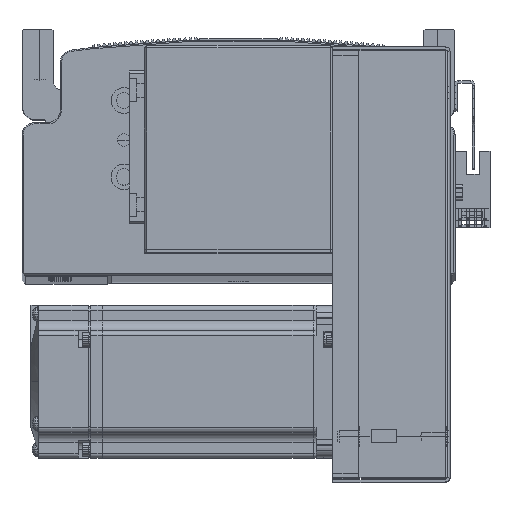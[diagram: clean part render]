
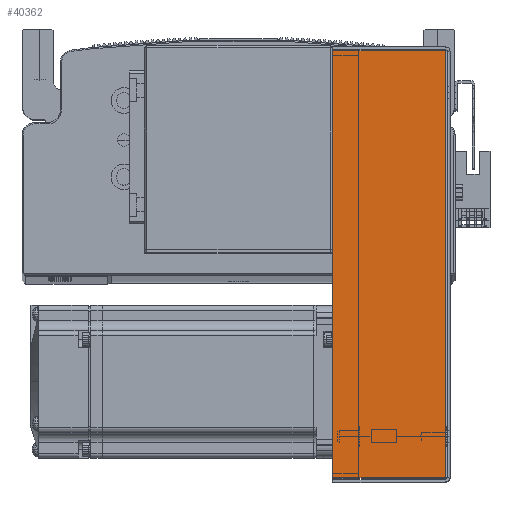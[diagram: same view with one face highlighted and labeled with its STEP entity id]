
A CAD part, top view. The second image highlights one B-rep face of the part: STEP entity #40362.
In plain terms, the highlighted planar face has unit normal (0, 0, 1) as drawn and (0, 0, -1) by its records, which use the part's own axes.
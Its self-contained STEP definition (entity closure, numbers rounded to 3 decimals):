
#6462 = EDGE_CURVE ( 'NONE', #61889, #61862, #42407, .T. ) ;
#6487 = EDGE_CURVE ( 'NONE', #61862, #61921, #42459, .T. ) ;
#6488 = EDGE_CURVE ( 'NONE', #61889, #61875, #42466, .T. ) ;
#6546 = EDGE_CURVE ( 'NONE', #61875, #61921, #24849, .T. ) ;
#24836 = VECTOR ( 'NONE', #72984, 1000. ) ;
#24849 = LINE ( 'NONE', #72948, #24836 ) ;
#30886 = AXIS2_PLACEMENT_3D ( 'NONE', #43049, #43037, #43054 ) ;
#35597 = FACE_OUTER_BOUND ( 'NONE', #80163, .T. ) ;
#39744 = ORIENTED_EDGE ( 'NONE', *, *, #6462, .T. ) ;
#39778 = ORIENTED_EDGE ( 'NONE', *, *, #6487, .T. ) ;
#39791 = ORIENTED_EDGE ( 'NONE', *, *, #6546, .F. ) ;
#39797 = ORIENTED_EDGE ( 'NONE', *, *, #6488, .F. ) ;
#40362 = ADVANCED_FACE ( 'NONE', ( #35597 ), #43058, .F. ) ;
#42407 = LINE ( 'NONE', #52869, #42408 ) ;
#42408 = VECTOR ( 'NONE', #52867, 1000. ) ;
#42459 = LINE ( 'NONE', #73485, #42460 ) ;
#42460 = VECTOR ( 'NONE', #73430, 1000. ) ;
#42462 = VECTOR ( 'NONE', #73501, 1000. ) ;
#42466 = LINE ( 'NONE', #73438, #42462 ) ;
#43037 = DIRECTION ( 'NONE',  ( 0., 0., 1. ) ) ;
#43049 = CARTESIAN_POINT ( 'NONE',  ( 0., 0., -40.5 ) ) ;
#43054 = DIRECTION ( 'NONE',  ( 0., -1., 0. ) ) ;
#43058 = PLANE ( 'NONE',  #30886 ) ;
#46066 = CARTESIAN_POINT ( 'NONE',  ( -83.793, 45., -40.5 ) ) ;
#46114 = CARTESIAN_POINT ( 'NONE',  ( 83.793, 0.737, -40.5 ) ) ;
#46182 = CARTESIAN_POINT ( 'NONE',  ( -83.793, 0.737, -40.5 ) ) ;
#46196 = CARTESIAN_POINT ( 'NONE',  ( 83.793, 45., -40.5 ) ) ;
#52867 = DIRECTION ( 'NONE',  ( 0., 1., 0. ) ) ;
#52869 = CARTESIAN_POINT ( 'NONE',  ( -83.793, 0., -40.5 ) ) ;
#61862 = VERTEX_POINT ( 'NONE', #46066 ) ;
#61875 = VERTEX_POINT ( 'NONE', #46114 ) ;
#61889 = VERTEX_POINT ( 'NONE', #46182 ) ;
#61921 = VERTEX_POINT ( 'NONE', #46196 ) ;
#72948 = CARTESIAN_POINT ( 'NONE',  ( 83.793, 0., -40.5 ) ) ;
#72984 = DIRECTION ( 'NONE',  ( 0., 1., 0. ) ) ;
#73430 = DIRECTION ( 'NONE',  ( 1., 0., 0. ) ) ;
#73438 = CARTESIAN_POINT ( 'NONE',  ( 0., 0.737, -40.5 ) ) ;
#73485 = CARTESIAN_POINT ( 'NONE',  ( 84.5, 45., -40.5 ) ) ;
#73501 = DIRECTION ( 'NONE',  ( 1., 0., 0. ) ) ;
#80163 = EDGE_LOOP ( 'NONE', ( #39797, #39744, #39778, #39791 ) ) ;
